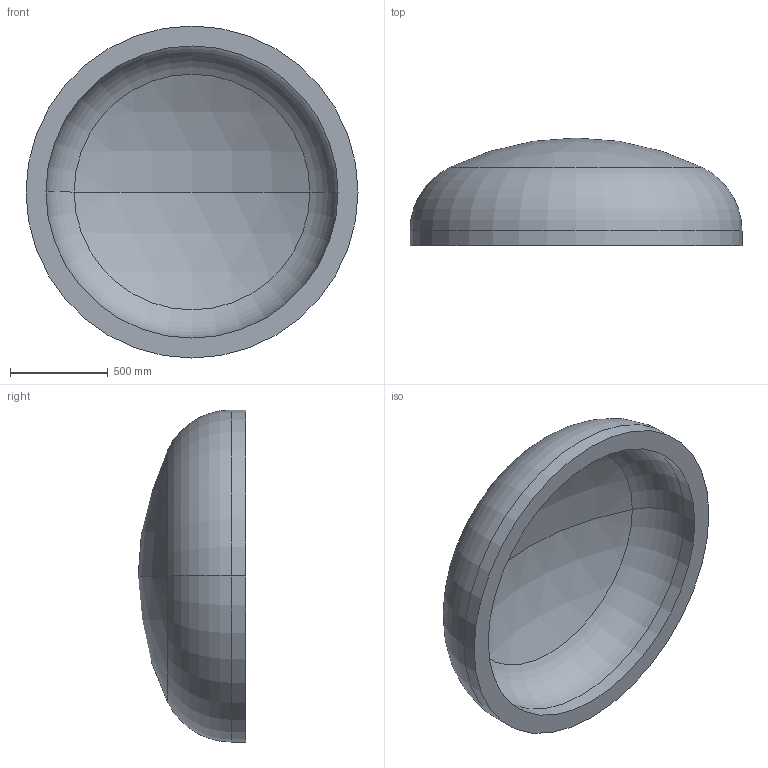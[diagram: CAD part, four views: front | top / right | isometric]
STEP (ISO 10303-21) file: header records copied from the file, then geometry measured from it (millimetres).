
FILE_DESCRIPTION (( 'STEP AP203' ), '1' );
FILE_NAME ('DIN 28013 Korbbogenform_-_Boden DIN 28013 - 1700 x 75 - I - s=102.step', '2016-07-01T12:08:21', ( '' ), ( '' ), 'SwSTEP 2.0', 'SolidWorks 2013', '' );
FILE_SCHEMA (( 'CONFIG_CONTROL_DESIGN' ));
Length unit declared in the file: millimetre
Products named in the file (1): DIN 28013 Korbbogenform_-_Boden DIN 28013 - 1700 x 75 - I - s=102
Bounding box: 1700 x 551.17 x 1700 mm (x, y, z)
Volume: 335025083.7 mm3; surface area: 7102974.7 mm2
Topology: 1 solids, 1 shells, 13 faces, 24 edges, 14 vertices
Faces by surface type: torus 4, cylinder 4, sphere 4, plane 1
Entity records: 407 total; most frequent: DIRECTION 72, CARTESIAN_POINT 52, ORIENTED_EDGE 48, AXIS2_PLACEMENT_3D 34, EDGE_CURVE 24, CIRCLE 20, EDGE_LOOP 14, VERTEX_POINT 14
